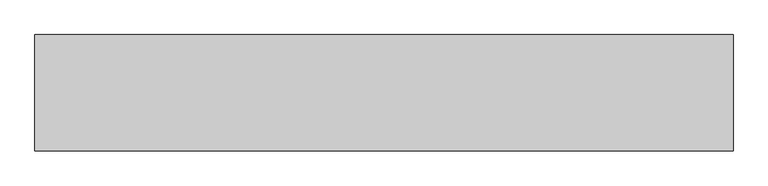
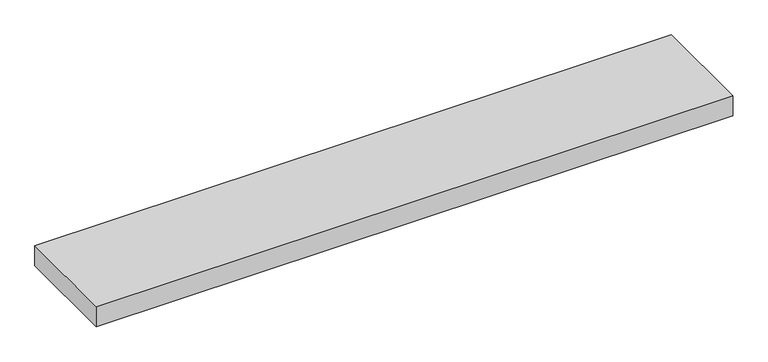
"""IFC4 building model written with IfcOpenShell, lengths in millimetres: light fixture geometry, GENILED_Светильник светодиодный_ЛПО Advanced : ЛПО Advanced 1200х180х40 40Вт Опал."""

from ifc_helpers import new_model, si_unit, origin, place, context, project, spatial, faceted_brep, source, transform, mapped, element, save


def light_fixture_13749f30(model_context):
    return source(origin(), model_context, "Body", "Brep", [
        faceted_brep([(600.0, 100.0, 40.0), (-600.0, 100.0, 40.0), (-600.0, -100.0, 40.0), (600.0, -100.0, 40.0), (590.0, 90.0, 5.0), (590.0, -90.0, 5.0), (-590.0, -90.0, 5.0), (-590.0, 90.0, 5.0), (600.0, 100.0, 0.0), (600.0, -100.0, 0.0), (-600.0, -100.0, 0.0), (-600.0, 100.0, 0.0), (590.0, 90.0, 0.0), (-590.0, 90.0, 0.0), (-590.0, -90.0, 0.0), (590.0, -90.0, 0.0)], [[[0, 1, 2, 3]], [[4, 5, 6, 7]], [[8, 9, 10, 11], [12, 13, 14, 15]], [[1, 0, 8, 11]], [[2, 1, 11, 10]], [[3, 2, 10, 9]], [[0, 3, 9, 8]], [[12, 15, 5, 4]], [[15, 14, 6, 5]], [[14, 13, 7, 6]], [[13, 12, 4, 7]]]),
    ])


if __name__ == "__main__":
    model = new_model("IFC4")
    model_context = context("Model", 3, world=origin())
    ifc_project = project(units=[si_unit("LENGTHUNIT", "METRE", prefix="MILLI")], contexts=[model_context])
    site = spatial("IfcSite", under=ifc_project)
    building = spatial("IfcBuilding", under=site)
    placement = place(None, origin())
    light_fixture_shape = light_fixture_13749f30(model_context)
    element("IfcLightFixture", 1, ObjectType="GENILED_Светильник светодиодный_ЛПО Advanced : ЛПО Advanced 1200х180х40 40Вт Опал", at=placement, inside=building, context=model_context, shape_type="MappedRepresentation", body=[
        mapped(light_fixture_shape, transform((0.0, 0.0, 0.0), x_axis=(1.0, 0.0, 0.0), y_axis=(0.0, 1.0, 0.0), z_axis=(0.0, 0.0, 1.0))),
    ])
    save(model, "model.ifc")
